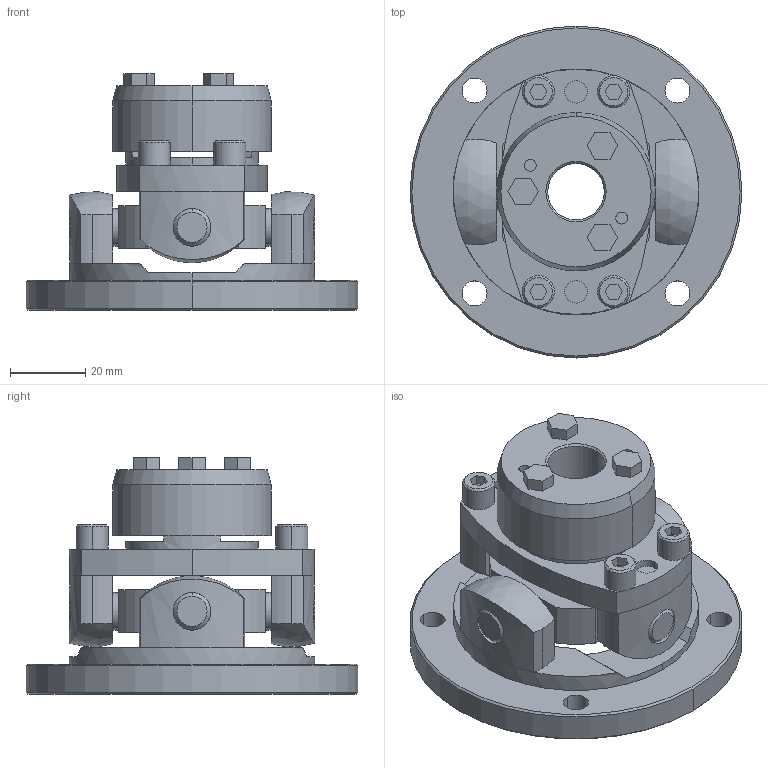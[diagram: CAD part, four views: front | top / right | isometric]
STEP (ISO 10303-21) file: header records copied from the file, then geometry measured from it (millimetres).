
FILE_DESCRIPTION((''),'2;1');
FILE_NAME('UCNF-65T7-15.stp','2011-09-17T16:11:14',(''),(''),'AutoCAD STEP 2000i','AutoCAD 2000i',', , ');
FILE_SCHEMA(('CONFIG_CONTROL_DESIGN'));
Length unit declared in the file: millimetre
Products named in the file (6): UCNF-65T7-15; 忣兜1; UCNF-6502; UCN65T7-T015-1; UCN65T7-T015; UCN65-SEN
Assembly tree (5 placements, depth 2):
  UCNF-65T7-15
    忣兜1
    UCNF-6502
    UCN65T7-T015-1
    UCN65T7-T015
    UCN65-SEN
Bounding box: 88 x 88 x 62.7 mm (x, y, z)
Volume: 112688.6 mm3; surface area: 37021.5 mm2
Topology: 1 solids, 1 shells, 279 faces, 693 edges, 449 vertices
Faces by surface type: plane 129, cylinder 108, cone 38, sphere 4
Entity records: 8919 total; most frequent: CARTESIAN_POINT 1815, DIRECTION 1550, ORIENTED_EDGE 1386, EDGE_CURVE 693, AXIS2_PLACEMENT_3D 588, VERTEX_POINT 449, VECTOR 374, LINE 374
